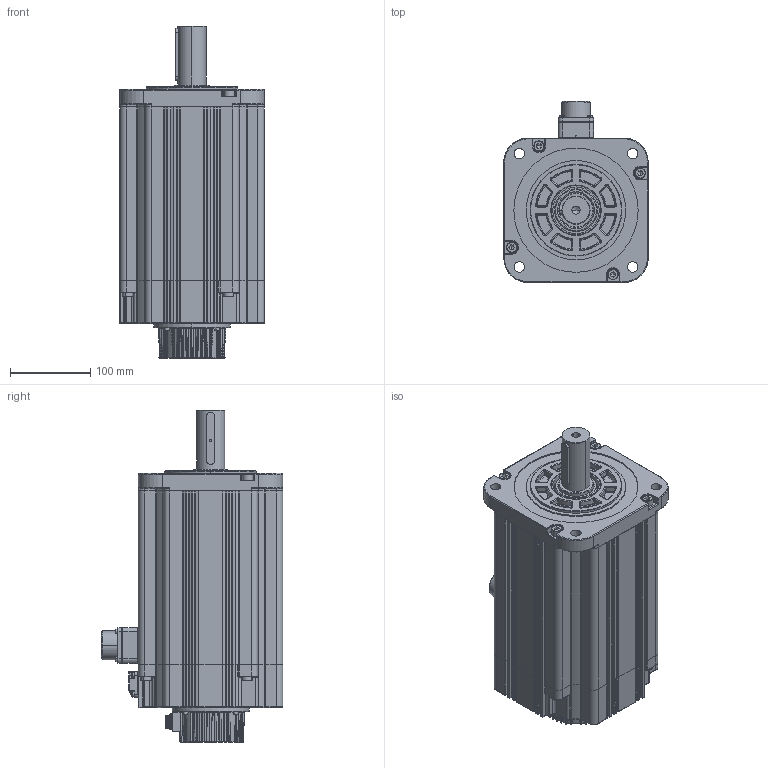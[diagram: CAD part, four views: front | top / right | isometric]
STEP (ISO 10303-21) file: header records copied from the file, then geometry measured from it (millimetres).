
FILE_DESCRIPTION (( 'STEP AP214' ), '1' );
FILE_NAME ('153.5酗沺郋 湍价陬.STEP', '2021-10-26T06:15:54', ( '' ), ( '' ), 'SwSTEP 2.0', 'SolidWorks 2014', '' );
FILE_SCHEMA (( 'AUTOMOTIVE_DESIGN' ));
Length unit declared in the file: millimetre
Products named in the file (20): 153.5酗沺郋 湍价陬; 埴芛囀鞠褒 ISO 4762 M6 x 20 --- 20N; SC180瑤脣釱1015; 价陬揤盄裔200912; 埴芛囀鞠褒 ISO 4762 M3 x 8 --- 8N; SC蚐猾 D00B999YF8-TC 44-62-10; 埴芛囀鞠褒 ISO 4762 M3 x 30 --- 18N; SC180#綴傷裔蹟隊熬傻-201020; SC180ヶ傷裔1009; 180儂褲1009; SC晤鎢ん欶200908_10郋; 180粣-47沺郋_1; SCSC瑤諾脣芛 16M-9H; 綴傷裔-111; 埴芛囀鞠褒 ISO 4762 M3 x 10 --- 10N; 180#陔隅赽201019; す瑩^180#陔萇儂-拸价陬 201021_1; SC瑤諾脣芛 24-11-9pin; 坋趼攫芛蹟佪 M2X8-8  H type-N; 埴芛囀鞠褒 ISO 4762 M8 x 30 --- 30N
Assembly tree (40 placements, depth 3):
  153.5酗沺郋 湍价陬
    180#陔隅赽201019
      SC180ヶ傷裔1009
      SC180瑤脣釱1015
      180儂褲1009
    SC晤鎢ん欶200908_10郋
    SCSC瑤諾脣芛 16M-9H
    SC蚐猾 D00B999YF8-TC 44-62-10
    坋趼攫芛蹟佪 M2X8-8  H type-N  x4
    埴芛囀鞠褒 ISO 4762 M3 x 10 --- 10N  x4
    埴芛囀鞠褒 ISO 4762 M8 x 30 --- 30N  x8
    埴芛囀鞠褒 ISO 4762 M3 x 30 --- 18N  x4
    SC瑤諾脣芛 24-11-9pin
    綴傷裔-111
      SC180#綴傷裔蹟隊熬傻-201020
    价陬揤盄裔200912
    埴芛囀鞠褒 ISO 4762 M3 x 8 --- 8N  x4
    埴芛囀鞠褒 ISO 4762 M6 x 20 --- 20N  x3
    180粣-47沺郋_1
    す瑩^180#陔萇儂-拸价陬 201021_1
Bounding box: 180 x 226.3 x 414 mm (x, y, z)
Volume: 2599264.5 mm3; surface area: 688743.5 mm2
Topology: 39 solids, 39 shells, 3689 faces, 8982 edges, 5245 vertices
Faces by surface type: cylinder 1257, plane 1003, torus 489, bspline 473, cone 285, sphere 182
Entity records: 147283 total; most frequent: CARTESIAN_POINT 43945, DIRECTION 14949, ORIENTED_EDGE 14942, EDGE_CURVE 7471, AXIS2_PLACEMENT_3D 6124, VERTEX_POINT 4487, EDGE_LOOP 3356, CIRCLE 3346
